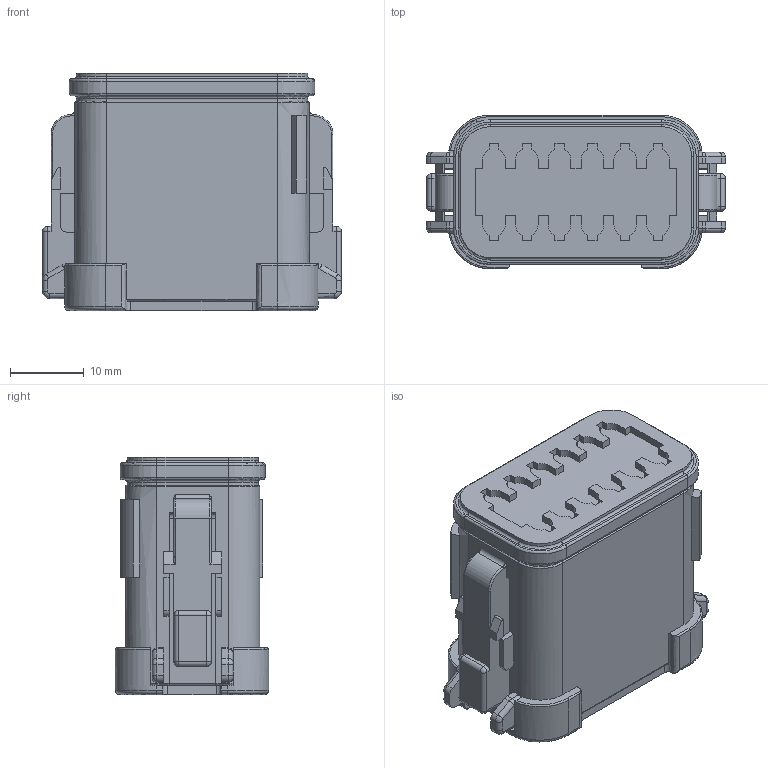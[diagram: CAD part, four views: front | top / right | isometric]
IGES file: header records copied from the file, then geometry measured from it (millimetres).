
Start section:  PTC IGES file: c-dt06-12sc-e003-99-3d.igs
Global section: file name: c-dt06-12sc-e003-99-3d.igs; native system: Pro/ENGINEER by Parametric Technology Corporation; preprocessor: 2011490; author: workeradm; organization: Unknown; units: millimetre
Bounding box: 40.56 x 20.83 x 32.21 mm (x, y, z)
Surface area: 6288.9 mm2 (no closed solid volume)
Topology: 0 solids, 0 shells, 696 faces, 3576 edges, 3576 vertices
Faces by surface type: bspline 364, revolution 332
